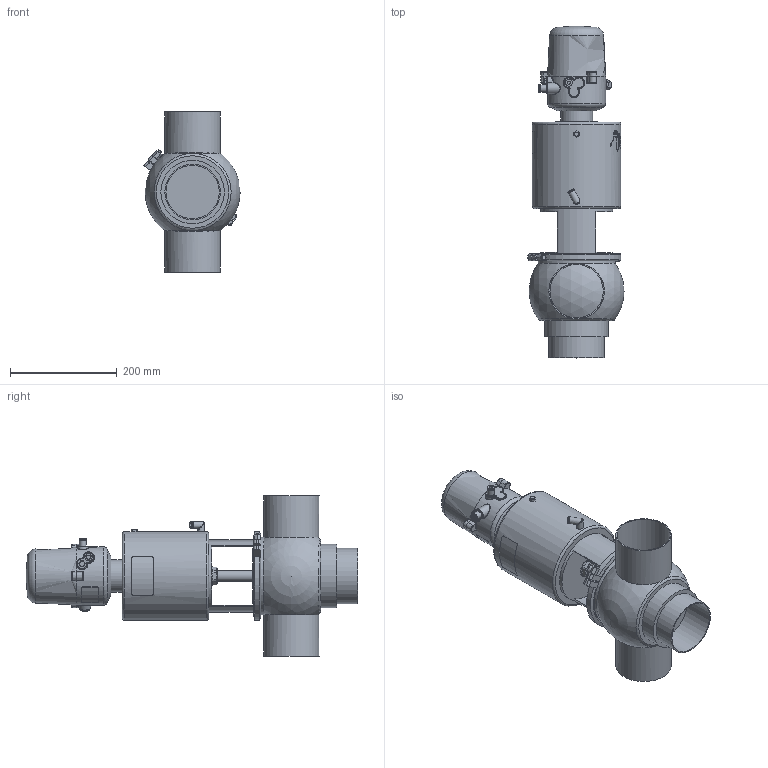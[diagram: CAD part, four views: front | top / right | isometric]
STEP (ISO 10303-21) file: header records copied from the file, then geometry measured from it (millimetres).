
FILE_DESCRIPTION (( 'STEP AP214' ), '1' );
FILE_NAME ('INNOVA N T W DIN 100 T4 AS NC & C-TOP S_10.240.16.0058.STEP', '2024-08-06T08:16:27', ( '' ), ( '' ), 'SwSTEP 2.0', 'SolidWorks 2023', '' );
FILE_SCHEMA (( 'AUTOMOTIVE_DESIGN' ));
Length unit declared in the file: millimetre
Products named in the file (7): 10.240.15.0014_T4 AS P0; 10.240.15.0010_DN 100; 10.240.15.0001_DN 100; 10.240.15.0017_Estàndard; INNOVA N T W DIN 100 T4 AS NC & C-TOP S_10.240.16.0058; 10.426.15.0001_C-TOP S - 1 EV; 10.240.15.0003_DIN 100
Assembly tree (6 placements, depth 2):
  INNOVA N T W DIN 100 T4 AS NC & C-TOP S_10.240.16.0058
    10.240.15.0003_DIN 100
    10.240.15.0010_DN 100
    10.240.15.0014_T4 AS P0
    10.240.15.0017_Estàndard
    10.426.15.0001_C-TOP S - 1 EV
    10.240.15.0001_DN 100
Bounding box: 180.26 x 622 x 300 mm (x, y, z)
Volume: 8145554.9 mm3; surface area: 587870.7 mm2
Topology: 6 solids, 6 shells, 1104 faces, 2661 edges, 1775 vertices
Faces by surface type: plane 376, cylinder 332, cone 191, bspline 160, torus 37, sphere 8
Full cylindrical faces by diameter (mm): 0.371 x17, 0.512 x16, 0.658 x16, 0.795 x16, 0.94 x15, 1.098 x15, 1.241 x13, 1.382 x13, 1.523 x11, 1.669 x10, 2.201 x1, 4 x2, 5.5 x2, 6 x2, 6.15 x1, 8 x4, 8.5 x1, 10 x1, 10.5 x1, 11 x2, 12.5 x3, 13 x2, 13.5 x2, 16 x1, 17 x3, 20 x3, 20.5 x1, 22 x2, 31 x1, 34.5 x3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
Entity records: 57902 total; most frequent: CARTESIAN_POINT 27842, ORIENTED_EDGE 4508, DIRECTION 3619, EDGE_CURVE 2254, VERTEX_POINT 1601, EDGE_LOOP 1553, AXIS2_PLACEMENT_3D 1481, FACE_OUTER_BOUND 1317
